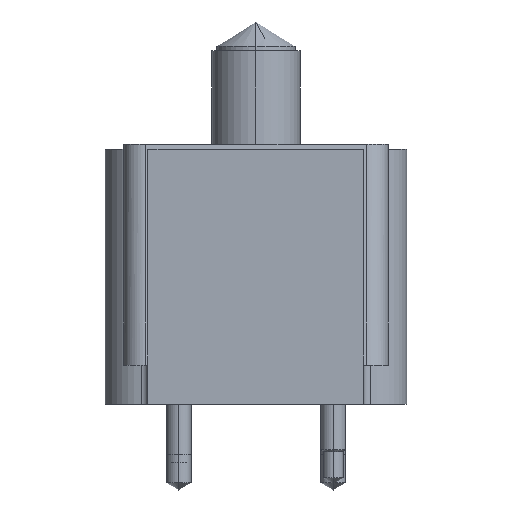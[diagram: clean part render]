
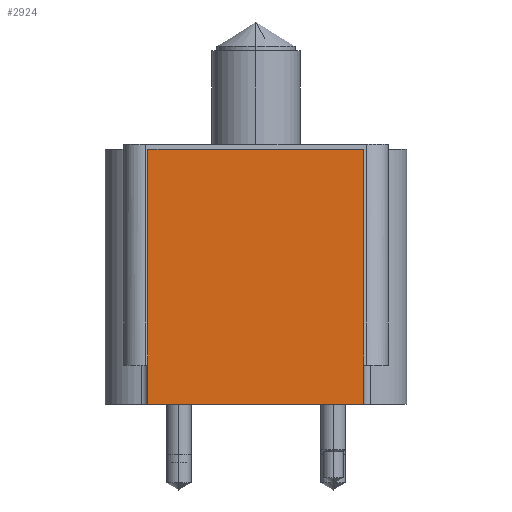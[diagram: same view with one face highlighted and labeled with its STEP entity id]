
A CAD part, left-side view. The second image highlights one B-rep face of the part: STEP entity #2924.
In plain terms, the highlighted planar face has unit normal (-1, 0, 0).
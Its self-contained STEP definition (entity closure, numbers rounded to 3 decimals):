
#2600=CARTESIAN_POINT('',(-84.201,-34.988,0.0));
#2601=VERTEX_POINT('',#2600);
#2618=CARTESIAN_POINT('',(-84.201,-34.988,82.55));
#2619=VERTEX_POINT('',#2618);
#2626=CARTESIAN_POINT('',(-84.201,-34.988,6.35));
#2627=DIRECTION('',(0.0,0.0,-1.0));
#2628=VECTOR('',#2627,1.0);
#2629=LINE('',#2626,#2628);
#2630=EDGE_CURVE('',#2619,#2601,#2629,.T.);
#2741=CARTESIAN_POINT('',(-84.201,34.988,0.0));
#2742=VERTEX_POINT('',#2741);
#2743=CARTESIAN_POINT('',(-84.201,0.0,0.0));
#2744=DIRECTION('',(0.0,-1.0,0.0));
#2745=VECTOR('',#2744,1.0);
#2746=LINE('',#2743,#2745);
#2747=EDGE_CURVE('',#2742,#2601,#2746,.T.);
#2901=ORIENTED_EDGE('',*,*,#2747,.T.);
#2902=ORIENTED_EDGE('',*,*,#2630,.F.);
#2903=CARTESIAN_POINT('',(-84.201,34.988,82.55));
#2904=VERTEX_POINT('',#2903);
#2905=CARTESIAN_POINT('',(-84.201,0.0,82.55));
#2906=DIRECTION('',(0.0,1.0,0.0));
#2907=VECTOR('',#2906,1.0);
#2908=LINE('',#2905,#2907);
#2909=EDGE_CURVE('',#2619,#2904,#2908,.T.);
#2910=ORIENTED_EDGE('',*,*,#2909,.T.);
#2911=CARTESIAN_POINT('',(-84.201,34.988,6.35));
#2912=DIRECTION('',(0.0,0.0,1.0));
#2913=VECTOR('',#2912,1.0);
#2914=LINE('',#2911,#2913);
#2915=EDGE_CURVE('',#2742,#2904,#2914,.T.);
#2916=ORIENTED_EDGE('',*,*,#2915,.F.);
#2917=EDGE_LOOP('',(#2901,#2902,#2910,#2916));
#2918=FACE_OUTER_BOUND('',#2917,.T.);
#2919=CARTESIAN_POINT('',(-84.201,0.0,0.0));
#2920=DIRECTION('',(-1.0,0.0,-0.0));
#2921=DIRECTION('',(-0.0,0.0,1.0));
#2922=AXIS2_PLACEMENT_3D('',#2919,#2920,#2921);
#2923=PLANE('',#2922);
#2924=ADVANCED_FACE('',(#2918),#2923,.T.);
